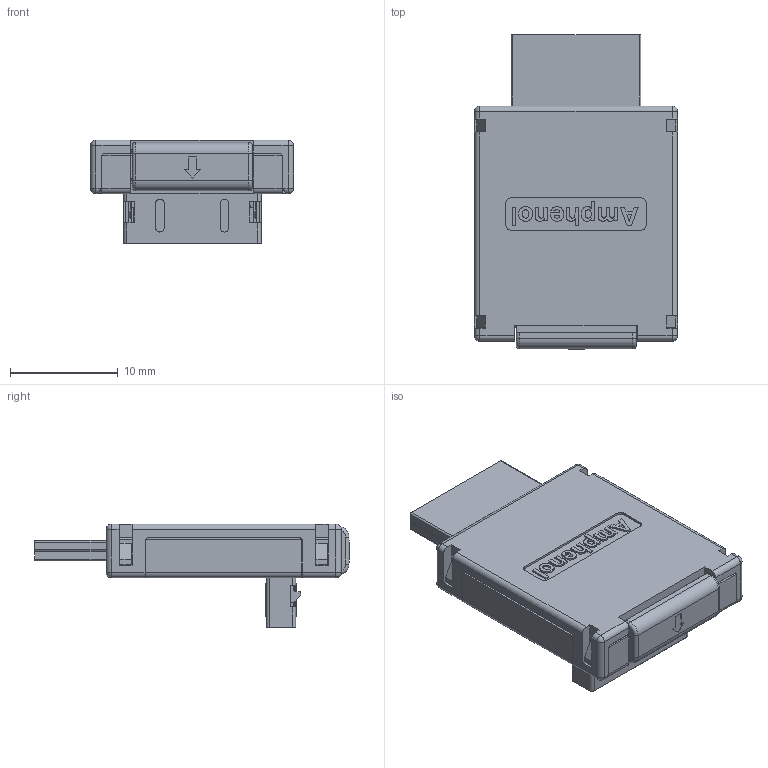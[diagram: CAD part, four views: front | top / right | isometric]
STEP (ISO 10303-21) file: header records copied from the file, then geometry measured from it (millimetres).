
FILE_DESCRIPTION((''),'2;1');
FILE_NAME('OCULINK_20150118_ASM_228_ASM_2__ASM','2016-08-15T',('louischan'),(''),'PRO/ENGINEER BY PARAMETRIC TECHNOLOGY CORPORATION, 2013230','PRO/ENGINEER BY PARAMETRIC TECHNOLOGY CORPORATION, 2013230','');
FILE_SCHEMA(('CONFIG_CONTROL_DESIGN'));
Length unit declared in the file: millimetre
Products named in the file (10): OCULINK_PLUG_STR_CORE1_27_16_1_; 30AWG_PCB_28_1_1; INNERMOLD_20150615_10_1_1; LATCH_5_61_1_1; OCULINK_PLUG_STR_TOP_C_18_88_1_; OCULINK_PLUG_STR_BOTTOM_C_81_1_; BUTTON_NEW_1_8_1_1; CABLE_4_1_1; RA-ACT; OCULINK_20150118_ASM_228_ASM_2__ASM
Assembly tree (10 placements, depth 2):
  OCULINK_20150118_ASM_228_ASM_2__ASM
    OCULINK_PLUG_STR_CORE1_27_16_1_
    30AWG_PCB_28_1_1
    INNERMOLD_20150615_10_1_1
    LATCH_5_61_1_1
    OCULINK_PLUG_STR_TOP_C_18_88_1_
    OCULINK_PLUG_STR_BOTTOM_C_81_1_
    BUTTON_NEW_1_8_1_1
    CABLE_4_1_1  x2
    RA-ACT
Bounding box: 18.8 x 29.1 x 9.61 mm (x, y, z)
Volume: 2043.1 mm3; surface area: 5002.7 mm2
Topology: 9 solids, 11 shells, 1747 faces, 5124 edges, 3287 vertices
Faces by surface type: plane 1387, cylinder 226, extrusion 89, sphere 18, cone 15, torus 10, bspline 2
Entity records: 57615 total; most frequent: CARTESIAN_POINT 11358, ORIENTED_EDGE 10112, DIRECTION 8709, EDGE_CURVE 5056, VECTOR 4457, LINE 4368, VERTEX_POINT 3267, AXIS2_PLACEMENT_3D 2126
